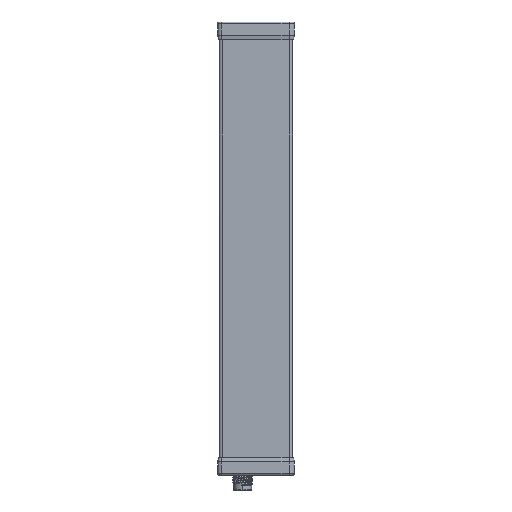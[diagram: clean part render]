
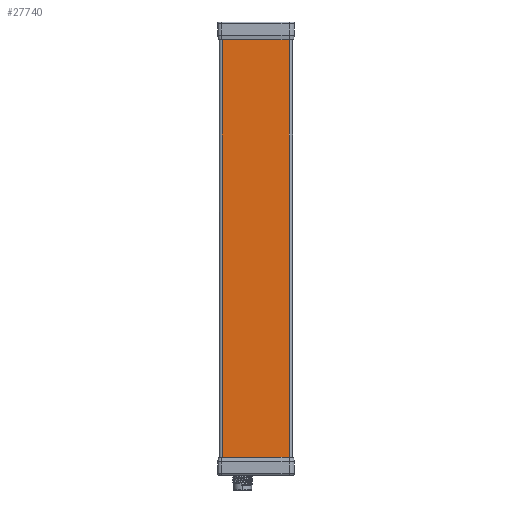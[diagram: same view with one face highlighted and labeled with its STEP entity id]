
A CAD part, left-side view. The second image highlights one B-rep face of the part: STEP entity #27740.
In plain terms, the highlighted planar face has unit normal (-1, 0, 0).
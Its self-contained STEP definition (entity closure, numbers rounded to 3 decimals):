
#5345 = DIRECTION ( 'NONE',  ( 0., 0., 1. ) ) ;
#5346 = VECTOR ( 'NONE', #5345, 1000. ) ;
#5347 = CARTESIAN_POINT ( 'NONE',  ( -31.97, -14.15, 195. ) ) ;
#5349 = LINE ( 'NONE', #5347, #5346 ) ;
#5355 = CARTESIAN_POINT ( 'NONE',  ( -31.97, -14.15, -63. ) ) ;
#5357 = DIRECTION ( 'NONE',  ( 0., 1., 0. ) ) ;
#5358 = VECTOR ( 'NONE', #5357, 1000. ) ;
#5361 = CARTESIAN_POINT ( 'NONE',  ( -31.97, -46.862, -63. ) ) ;
#5363 = LINE ( 'NONE', #5361, #5358 ) ;
#6385 = FACE_OUTER_BOUND ( 'NONE', #27741, .T. ) ;
#6518 = CARTESIAN_POINT ( 'NONE',  ( -31.97, -14.15, 193. ) ) ;
#6521 = DIRECTION ( 'NONE',  ( 0., -1., 0. ) ) ;
#6522 = VECTOR ( 'NONE', #6521, 1000. ) ;
#6523 = CARTESIAN_POINT ( 'NONE',  ( -31.97, 6.25, 193. ) ) ;
#6524 = LINE ( 'NONE', #6523, #6522 ) ;
#6676 = PLANE ( 'NONE',  #6760 ) ;
#6754 = DIRECTION ( 'NONE',  ( 0., -1., 0. ) ) ;
#6756 = DIRECTION ( 'NONE',  ( -1., 0., 0. ) ) ;
#6758 = CARTESIAN_POINT ( 'NONE',  ( -31.97, -46.862, 195. ) ) ;
#6760 = AXIS2_PLACEMENT_3D ( 'NONE', #6758, #6756, #6754 ) ;
#9752 = CARTESIAN_POINT ( 'NONE',  ( -31.97, 26.85, 193. ) ) ;
#9753 = DIRECTION ( 'NONE',  ( 0., 0., -1. ) ) ;
#9754 = VECTOR ( 'NONE', #9753, 1000. ) ;
#9755 = CARTESIAN_POINT ( 'NONE',  ( -31.97, 26.85, 195. ) ) ;
#9757 = LINE ( 'NONE', #9755, #9754 ) ;
#9759 = CARTESIAN_POINT ( 'NONE',  ( -31.97, 26.85, -63. ) ) ;
#27452 = VERTEX_POINT ( 'NONE', #9759 ) ;
#27454 = EDGE_CURVE ( 'NONE', #27455, #27452, #9757, .T. ) ;
#27455 = VERTEX_POINT ( 'NONE', #9752 ) ;
#27521 = ORIENTED_EDGE ( 'NONE', *, *, #27522, .F. ) ;
#27522 = EDGE_CURVE ( 'NONE', #27523, #27452, #5363, .T. ) ;
#27523 = VERTEX_POINT ( 'NONE', #5355 ) ;
#27524 = ORIENTED_EDGE ( 'NONE', *, *, #27525, .T. ) ;
#27525 = EDGE_CURVE ( 'NONE', #27523, #27744, #5349, .T. ) ;
#27740 = ADVANCED_FACE ( 'NONE', ( #6385 ), #6676, .T. ) ;
#27741 = EDGE_LOOP ( 'NONE', ( #27742, #27745, #27521, #27524 ) ) ;
#27742 = ORIENTED_EDGE ( 'NONE', *, *, #27743, .F. ) ;
#27743 = EDGE_CURVE ( 'NONE', #27455, #27744, #6524, .T. ) ;
#27744 = VERTEX_POINT ( 'NONE', #6518 ) ;
#27745 = ORIENTED_EDGE ( 'NONE', *, *, #27454, .T. ) ;
